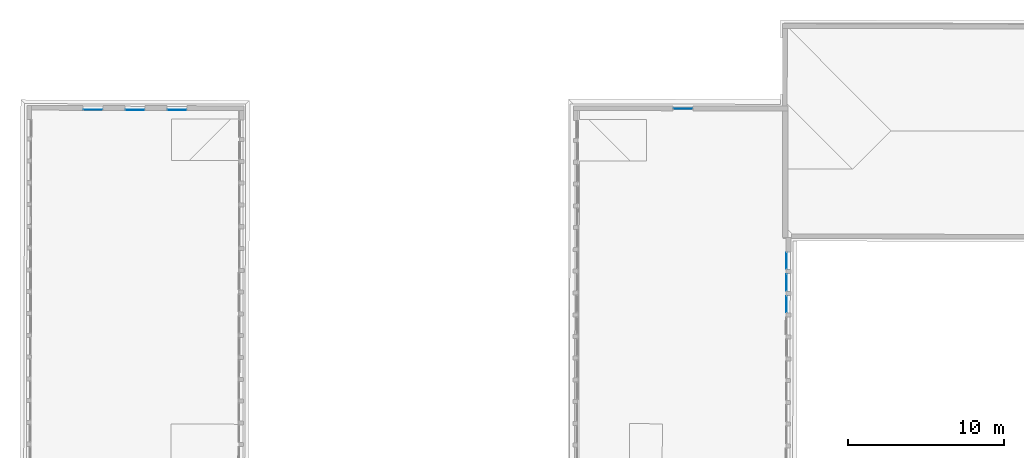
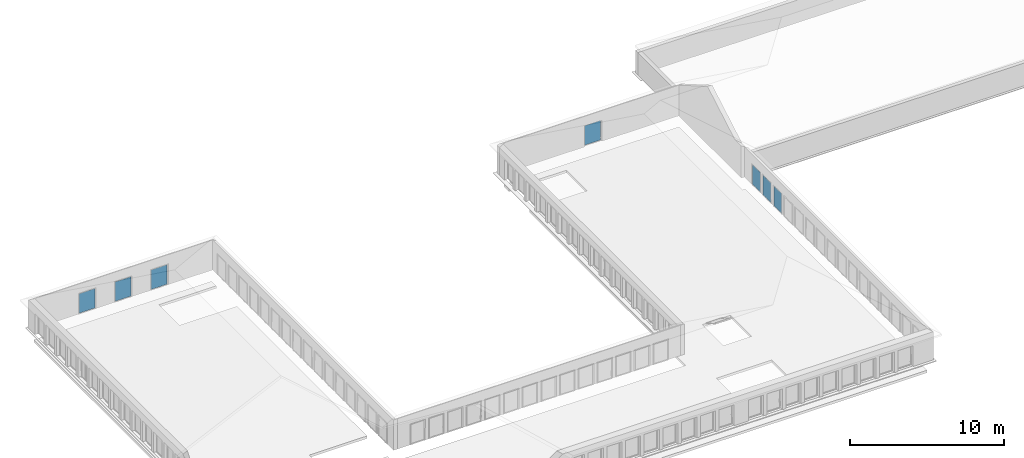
# One storey, part 21 of 26: 7 plates, 7 elements without a shape of their own.
"""IFC2X3 building model written with IfcOpenShell, lengths in metres."""

from ifc_helpers import new_model, entity, si_unit, converted_unit, derived_unit, direction, frame, frame_2d, origin, place, context, subcontext, project, spatial, rectangle, extrude, source, transform, mapped, material, layer, layer_set, type_object, type_shapes, element, aggregate, save


model = new_model("IFC2X3")

# Units and contexts
model_context = context("Model", 3, precision=1e-05, world=origin(), true_north=direction((6.123233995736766e-17, 1.0)))
body_context = subcontext(model_context, "Body", "Model", "MODEL_VIEW")
ifc_project = project(units=[si_unit("LENGTHUNIT", "METRE"), si_unit("AREAUNIT", "SQUARE_METRE"), converted_unit("PLANEANGLEUNIT", "DEGREE", entity("IfcPlaneAngleMeasure", 0.017453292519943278), si_unit("PLANEANGLEUNIT", "RADIAN"), dimensions=[0, 0, 0, 0, 0, 0, 0]), derived_unit("THERMALTRANSMITTANCEUNIT", [(si_unit("MASSUNIT", "GRAM", prefix="KILO"), 1), (si_unit("THERMODYNAMICTEMPERATUREUNIT", "KELVIN"), -1), (si_unit("TIMEUNIT", "SECOND"), -3)])], contexts=[model_context])

# Site, building, storey
site_placement = place(None, frame((1253.6752467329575, 2072.143113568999, 91.49999999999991), z_axis=(0.0, 0.0, 1.0), x_axis=(0.7237211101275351, 0.6900925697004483, 0.0)))
site = spatial("IfcSite", under=ifc_project, at=site_placement, Name="Surface", CompositionType="ELEMENT")
building_placement = place(site_placement, origin())
building = spatial("IfcBuilding", under=site, at=building_placement, CompositionType="ELEMENT")
storey_placement = place(building_placement, frame((0.0, 0.0, 7.0)))
storey = spatial("IfcBuildingStorey", under=building, at=storey_placement, Name="2-R+2", CompositionType="ELEMENT", Elevation=6.999999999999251)

# Curtain wall, plate
curtain_wall_type = type_object("IfcCurtainWallType", Name="Mur-rideau:Menuiserie Ext 1F+1OB VERTIC", PredefinedType="NOTDEFINED")
curtain_wall_1_placement = place(storey_placement, frame((0.0, 0.0, -7.0)))
curtain_wall_1 = element("IfcCurtainWall", 1, at=curtain_wall_1_placement, inside=storey, type_object=curtain_wall_type, Name="Mur-rideau:Menuiserie Ext 1F+1OB VERTIC", ObjectType="Mur-rideau:Menuiserie Ext 1F+1OB VERTIC")
ifc_material = material(Name="Verre")
ifc_layer = layer(ifc_material, 0.01)
ifc_layer_set = layer_set([ifc_layer], Name="Panneau système:Vitré")
plate_type_1 = type_object("IfcPlateType", Name="Panneau système:Vitré", PredefinedType="CURTAIN_PANEL", material=ifc_layer_set)
shared_shape_1 = source(origin(), body_context, "Body", "SweptSolid", [
    extrude(rectangle(XDim=0.01, YDim=1.1996959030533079, at=frame_2d((0.0, -1.6653345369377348e-16), x_axis=(1.0, 0.0))), frame((0.0, 0.0, 0.0), z_axis=(0.0, 0.0, 1.0), x_axis=(0.0, 1.0, 0.0)), (0.0, 0.0, 1.0), 1.5499999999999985),
])
type_shapes(plate_type_1, [shared_shape_1])
plate_1_placement = place(curtain_wall_1_placement, frame((171.06301384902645, 22.717842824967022, 7.949999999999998), z_axis=(0.0, 0.0, 1.0), x_axis=(-0.7228702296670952, 0.6909838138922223, 0.0)))
plate_1 = element("IfcPlate", 2, at=plate_1_placement, type_object=plate_type_1, material=ifc_material, Name="Panneau système:Vitré", ObjectType="Panneau système:Vitré", context=body_context, shape_type="MappedRepresentation", body=[
    mapped(shared_shape_1, transform((0.0, 0.0, 0.0), scale=1.0)),
])
aggregate(curtain_wall_1, [plate_1])

curtain_wall_2_placement = place(storey_placement, frame((0.0, 0.0, -7.0)))
curtain_wall_2 = element("IfcCurtainWall", 3, at=curtain_wall_2_placement, inside=storey, type_object=curtain_wall_type, Name="Mur-rideau:Menuiserie Ext 1F+1OB VERTIC", ObjectType="Mur-rideau:Menuiserie Ext 1F+1OB VERTIC")
plate_2_placement = place(curtain_wall_2_placement, frame((196.58398741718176, -1.52446789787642, 7.950000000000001), z_axis=(0.0, 0.0, 1.0), x_axis=(-0.7228702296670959, 0.6909838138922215, 0.0)))
plate_2 = element("IfcPlate", 4, at=plate_2_placement, type_object=plate_type_1, material=ifc_material, Name="Panneau système:Vitré", ObjectType="Panneau système:Vitré", context=body_context, shape_type="MappedRepresentation", body=[
    mapped(shared_shape_1, transform((0.0, 0.0, 0.0), scale=1.0)),
])
aggregate(curtain_wall_2, [plate_2])

curtain_wall_3_placement = place(storey_placement, frame((0.0, 0.0, -7.0)))
curtain_wall_3 = element("IfcCurtainWall", 5, at=curtain_wall_3_placement, inside=storey, type_object=curtain_wall_type, Name="Mur-rideau:Menuiserie Ext 1F+1OB VERTIC", ObjectType="Mur-rideau:Menuiserie Ext 1F+1OB VERTIC")
plate_3_placement = place(curtain_wall_3_placement, frame((173.01476346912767, 20.852186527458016, 7.949999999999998), z_axis=(0.0, 0.0, 1.0), x_axis=(-0.7228702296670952, 0.6909838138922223, 0.0)))
plate_3 = element("IfcPlate", 6, at=plate_3_placement, type_object=plate_type_1, material=ifc_material, Name="Panneau système:Vitré", ObjectType="Panneau système:Vitré", context=body_context, shape_type="MappedRepresentation", body=[
    mapped(shared_shape_1, transform((0.0, 0.0, 0.0), scale=1.0)),
])
aggregate(curtain_wall_3, [plate_3])

curtain_wall_4_placement = place(storey_placement, frame((0.0, 0.0, -7.0)))
curtain_wall_4 = element("IfcCurtainWall", 7, at=curtain_wall_4_placement, inside=storey, type_object=curtain_wall_type, Name="Mur-rideau:Menuiserie Ext 1F+1OB VERTIC", ObjectType="Mur-rideau:Menuiserie Ext 1F+1OB VERTIC")
plate_4_placement = place(curtain_wall_4_placement, frame((169.11528079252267, 24.579659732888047, 7.949999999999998), z_axis=(0.0, 0.0, 1.0), x_axis=(-0.7228702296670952, 0.6909838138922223, 0.0)))
plate_4 = element("IfcPlate", 8, at=plate_4_placement, type_object=plate_type_1, material=ifc_material, Name="Panneau système:Vitré", ObjectType="Panneau système:Vitré", context=body_context, shape_type="MappedRepresentation", body=[
    mapped(shared_shape_1, transform((0.0, 0.0, 0.0), scale=1.0)),
])
aggregate(curtain_wall_4, [plate_4])

curtain_wall_5_placement = place(storey_placement, frame((0.0, 0.0, -7.0)))
curtain_wall_5 = element("IfcCurtainWall", 9, at=curtain_wall_5_placement, inside=storey, type_object=curtain_wall_type, Name="Mur-rideau:Menuiserie Ext 1F+1OB VERTIC", ObjectType="Mur-rideau:Menuiserie Ext 1F+1OB VERTIC")
plate_type_2 = type_object("IfcPlateType", Name="Panneau système:Vitré", PredefinedType="CURTAIN_PANEL", material=ifc_layer_set)
shared_shape_2 = source(origin(), body_context, "Body", "SweptSolid", [
    extrude(rectangle(XDim=0.01, YDim=1.0399999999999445, at=frame_2d((0.0, 1.4988010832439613e-15), x_axis=(1.0, 0.0))), frame((0.0, 0.0, 0.0), z_axis=(0.0, 0.0, 1.0), x_axis=(0.0, 1.0, 0.0)), (0.0, 0.0, 1.0), 1.5499999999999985),
])
type_shapes(plate_type_2, [shared_shape_2])
plate_5_placement = place(curtain_wall_5_placement, frame((194.67119227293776, -13.176396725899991, 7.950000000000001), z_axis=(0.0, 0.0, 1.0), x_axis=(0.6909838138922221, 0.7228702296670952, 0.0)))
plate_5 = element("IfcPlate", 10, at=plate_5_placement, type_object=plate_type_2, material=ifc_material, Name="Panneau système:Vitré", ObjectType="Panneau système:Vitré", context=body_context, shape_type="MappedRepresentation", body=[
    mapped(shared_shape_2, transform((0.0, 0.0, 0.0), scale=1.0)),
])
aggregate(curtain_wall_5, [plate_5])

curtain_wall_6_placement = place(storey_placement, frame((0.0, 0.0, -7.0)))
curtain_wall_6 = element("IfcCurtainWall", 11, at=curtain_wall_6_placement, inside=storey, type_object=curtain_wall_type, Name="Mur-rideau:Menuiserie Ext 1F+1OB VERTIC", ObjectType="Mur-rideau:Menuiserie Ext 1F+1OB VERTIC")
plate_6_placement = place(curtain_wall_6_placement, frame((193.70242678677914, -14.187086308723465, 7.950000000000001), z_axis=(0.0, 0.0, 1.0), x_axis=(0.6909838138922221, 0.7228702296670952, 0.0)))
plate_6 = element("IfcPlate", 12, at=plate_6_placement, type_object=plate_type_2, material=ifc_material, Name="Panneau système:Vitré", ObjectType="Panneau système:Vitré", context=body_context, shape_type="MappedRepresentation", body=[
    mapped(shared_shape_2, transform((0.0, 0.0, 0.0), scale=1.0)),
])
aggregate(curtain_wall_6, [plate_6])

curtain_wall_7_placement = place(storey_placement, frame((0.0, 0.0, -7.0)))
curtain_wall_7 = element("IfcCurtainWall", 13, at=curtain_wall_7_placement, inside=storey, type_object=curtain_wall_type, Name="Mur-rideau:Menuiserie Ext 1F+1OB VERTIC", ObjectType="Mur-rideau:Menuiserie Ext 1F+1OB VERTIC")
plate_7_placement = place(curtain_wall_7_placement, frame((192.73366130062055, -15.197775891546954, 7.950000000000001), z_axis=(0.0, 0.0, 1.0), x_axis=(0.6909838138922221, 0.7228702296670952, 0.0)))
plate_7 = element("IfcPlate", 14, at=plate_7_placement, type_object=plate_type_2, material=ifc_material, Name="Panneau système:Vitré", ObjectType="Panneau système:Vitré", context=body_context, shape_type="MappedRepresentation", body=[
    mapped(shared_shape_2, transform((0.0, 0.0, 0.0), scale=1.0)),
])
aggregate(curtain_wall_7, [plate_7])

save(model, "model.ifc")
